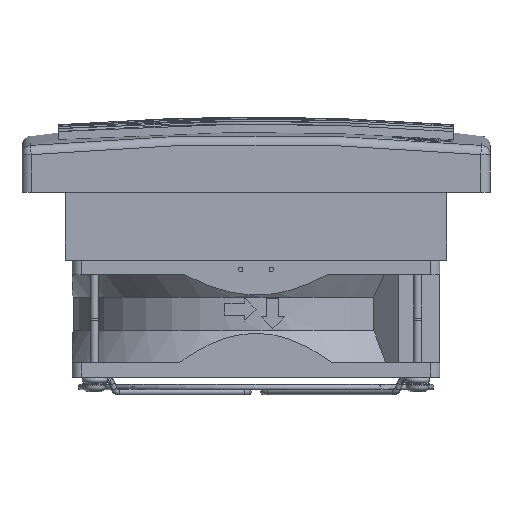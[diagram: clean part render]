
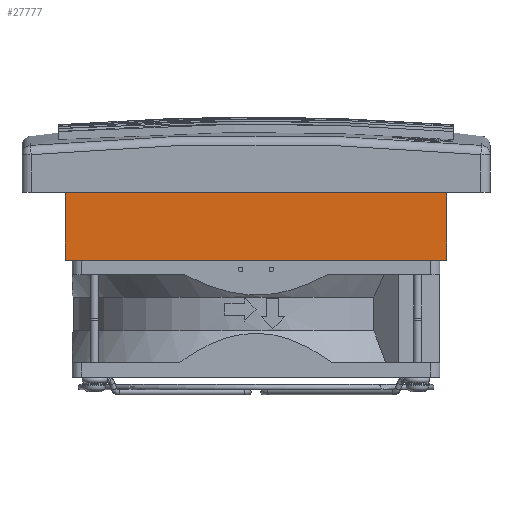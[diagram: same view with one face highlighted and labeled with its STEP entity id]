
A CAD part, front view. The second image highlights one B-rep face of the part: STEP entity #27777.
In plain terms, the highlighted planar face has unit normal (0, -1, 0).
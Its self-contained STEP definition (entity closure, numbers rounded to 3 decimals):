
#85 = ORIENTED_EDGE ( 'NONE', *, *, #20581, .F. ) ;
#1391 = DIRECTION ( 'NONE',  ( -1., 0., 0. ) ) ;
#2594 = LINE ( 'NONE', #11146, #19315 ) ;
#2598 = FACE_OUTER_BOUND ( 'NONE', #4643, .T. ) ;
#2959 = CARTESIAN_POINT ( 'NONE',  ( 124., -124., -22. ) ) ;
#4643 = EDGE_LOOP ( 'NONE', ( #15771, #27252, #85, #23438 ) ) ;
#4845 = PLANE ( 'NONE',  #8756 ) ;
#5045 = DIRECTION ( 'NONE',  ( -1., 0., 0. ) ) ;
#5163 = VERTEX_POINT ( 'NONE', #27097 ) ;
#6186 = CARTESIAN_POINT ( 'NONE',  ( 0., -124., -22. ) ) ;
#7155 = CARTESIAN_POINT ( 'NONE',  ( 124., -124., -22. ) ) ;
#7974 = LINE ( 'NONE', #27471, #18899 ) ;
#8756 = AXIS2_PLACEMENT_3D ( 'NONE', #9694, #24931, #11900 ) ;
#9694 = CARTESIAN_POINT ( 'NONE',  ( 124., -124., -22. ) ) ;
#11146 = CARTESIAN_POINT ( 'NONE',  ( 124., -124., -22. ) ) ;
#11900 = DIRECTION ( 'NONE',  ( 0., 0., -1. ) ) ;
#12341 = VECTOR ( 'NONE', #5045, 1000. ) ;
#13014 = LINE ( 'NONE', #2959, #12341 ) ;
#13123 = VERTEX_POINT ( 'NONE', #7155 ) ;
#14091 = LINE ( 'NONE', #20288, #19211 ) ;
#15771 = ORIENTED_EDGE ( 'NONE', *, *, #23418, .T. ) ;
#17151 = EDGE_CURVE ( 'NONE', #13123, #17280, #2594, .T. ) ;
#17280 = VERTEX_POINT ( 'NONE', #23765 ) ;
#18899 = VECTOR ( 'NONE', #1391, 1000. ) ;
#19211 = VECTOR ( 'NONE', #20383, 1000. ) ;
#19315 = VECTOR ( 'NONE', #26346, 1000. ) ;
#20288 = CARTESIAN_POINT ( 'NONE',  ( 0., -124., -22. ) ) ;
#20383 = DIRECTION ( 'NONE',  ( 0., 0., 1. ) ) ;
#20440 = VERTEX_POINT ( 'NONE', #6186 ) ;
#20581 = EDGE_CURVE ( 'NONE', #13123, #20440, #13014, .T. ) ;
#23418 = EDGE_CURVE ( 'NONE', #17280, #5163, #7974, .T. ) ;
#23438 = ORIENTED_EDGE ( 'NONE', *, *, #17151, .T. ) ;
#23765 = CARTESIAN_POINT ( 'NONE',  ( 124., -124., 0. ) ) ;
#24931 = DIRECTION ( 'NONE',  ( 0., 1., 0. ) ) ;
#24995 = EDGE_CURVE ( 'NONE', #20440, #5163, #14091, .T. ) ;
#26346 = DIRECTION ( 'NONE',  ( 0., 0., 1. ) ) ;
#27097 = CARTESIAN_POINT ( 'NONE',  ( 0., -124., 0. ) ) ;
#27252 = ORIENTED_EDGE ( 'NONE', *, *, #24995, .F. ) ;
#27471 = CARTESIAN_POINT ( 'NONE',  ( 124., -124., 0. ) ) ;
#27777 = ADVANCED_FACE ( 'NONE', ( #2598 ), #4845, .F. ) ;
